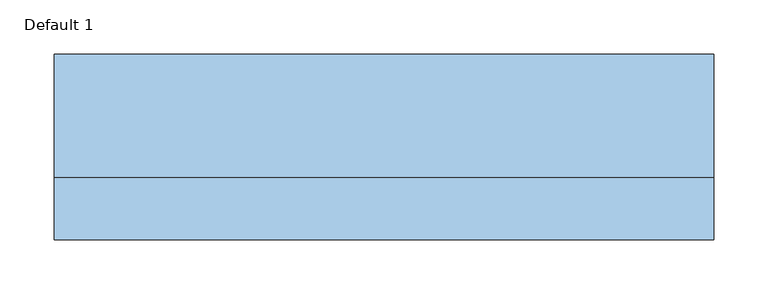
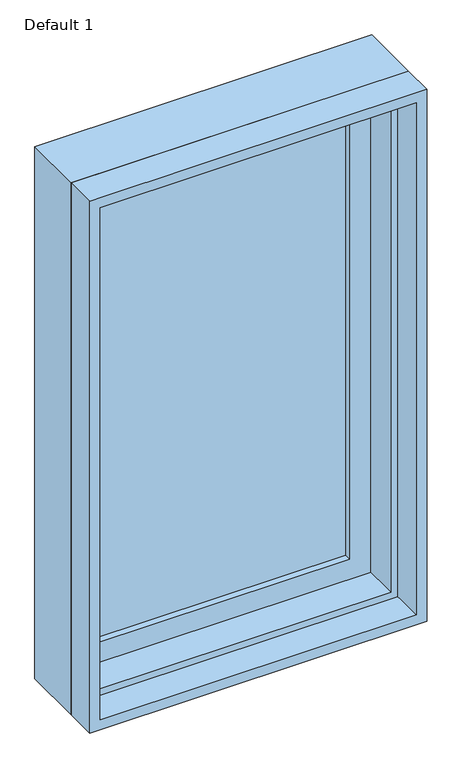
"""IFC4 building model written with IfcOpenShell, lengths in millimetres: window geometry, Planitar-Casement-Single_Left : Default 1."""

from ifc_helpers import new_model, si_unit, frame, origin, place, context, project, spatial, polyline, outline, extrude, faceted_brep, source, transform, mapped, element, save


def default_1_82db3804(model_context):
    return source(origin(), model_context, "Body", "SolidModel", [
        extrude(outline(polyline([(234.95, 76.2), (234.95, 69.85), (-234.95, 69.85), (-234.95, 76.2), (234.95, 76.2)])), frame((0.0, 0.0, 984.25), z_axis=(0.0, 0.0, 1.0), x_axis=(1.0, 0.0, 0.0)), (0.0, 0.0, 1.0), 876.3),
        extrude(outline(polyline([(-234.95, 57.15), (-234.95, 63.5), (234.95, 63.5), (234.95, 57.15), (-234.95, 57.15)])), frame((0.0, 0.0, 984.25), z_axis=(0.0, 0.0, 1.0), x_axis=(1.0, 0.0, 0.0)), (0.0, 0.0, 1.0), 876.3),
        extrude(outline(polyline([(1917.7, -292.1), (927.1, -292.1), (927.1, 292.1), (1917.7, 292.1), (1917.7, -292.1)]), holes=[polyline([(1860.55, 234.95), (984.25, 234.95), (984.25, -234.95), (1860.55, -234.95), (1860.55, 234.95)])]), frame((0.0, 44.45, 0.0), z_axis=(0.0, 1.0, 0.0), x_axis=(0.0, 0.0, 1.0)), (0.0, 0.0, 1.0), 44.45),
        extrude(outline(polyline([(1930.4, -304.8), (914.4, -304.8), (914.4, 304.8), (1930.4, 304.8), (1930.4, -304.8)]), holes=[polyline([(1911.35, 285.75), (933.45, 285.75), (933.45, -285.75), (1911.35, -285.75), (1911.35, 285.75)])]), frame((0.0, -76.2, 0.0), z_axis=(0.0, 1.0, 0.0), x_axis=(0.0, 0.0, 1.0)), (0.0, 0.0, 1.0), 57.15),
        faceted_brep([(273.05, 44.45, 1898.65), (273.05, -19.05, 1898.65), (-273.05, -19.05, 1898.65), (-273.05, 44.45, 1898.65), (292.1, 95.25, 1917.7), (292.1, 44.45, 1917.7), (-292.1, 44.45, 1917.7), (-292.1, 95.25, 1917.7), (304.8, -19.05, 1930.4), (304.8, 95.25, 1930.4), (-304.8, 95.25, 1930.4), (-304.8, -19.05, 1930.4), (-273.05, -19.05, 946.15), (-273.05, 44.45, 946.15), (-292.1, 44.45, 927.1), (-292.1, 95.25, 927.1), (-304.8, 95.25, 914.4), (-304.8, -19.05, 914.4), (273.05, -19.05, 946.15), (273.05, 44.45, 946.15), (292.1, 44.45, 927.1), (292.1, 95.25, 927.1), (304.8, 95.25, 914.4), (304.8, -19.05, 914.4)], [[[0, 1, 2, 3]], [[4, 5, 6, 7]], [[8, 9, 10, 11]], [[3, 2, 12, 13]], [[7, 6, 14, 15]], [[11, 10, 16, 17]], [[13, 12, 18, 19]], [[15, 14, 20, 21]], [[17, 16, 22, 23]], [[11, 17, 23, 8], [1, 18, 12, 2]], [[19, 18, 1, 0]], [[5, 20, 14, 6], [3, 13, 19, 0]], [[21, 20, 5, 4]], [[23, 22, 9, 8]], [[9, 22, 16, 10], [7, 15, 21, 4]]]),
    ])


if __name__ == "__main__":
    model = new_model("IFC4")
    model_context = context("Model", 3, world=origin())
    ifc_project = project(units=[si_unit("LENGTHUNIT", "METRE", prefix="MILLI")], contexts=[model_context])
    site = spatial("IfcSite", under=ifc_project)
    building = spatial("IfcBuilding", under=site)
    placement = place(None, origin())
    default_1_shape = default_1_82db3804(model_context)
    element("IfcWindow", 1, ObjectType="Planitar-Casement-Single_Left : Default 1", at=placement, inside=building, context=model_context, shape_type="MappedRepresentation", body=[
        mapped(default_1_shape, transform((0.0, 0.0, 0.0), x_axis=(1.0, 0.0, 0.0), y_axis=(0.0, 1.0, 0.0), z_axis=(0.0, 0.0, 1.0))),
    ])
    save(model, "model.ifc")
